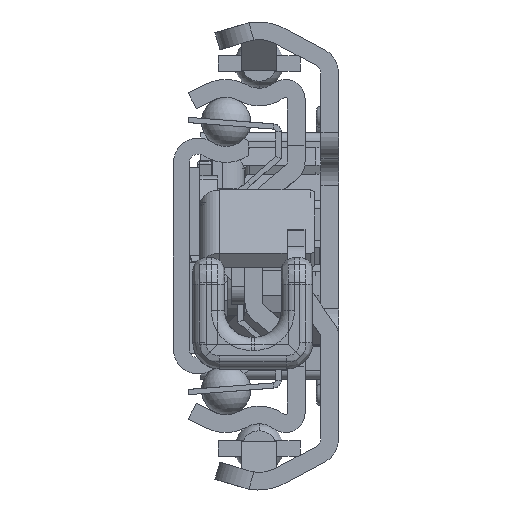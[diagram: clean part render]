
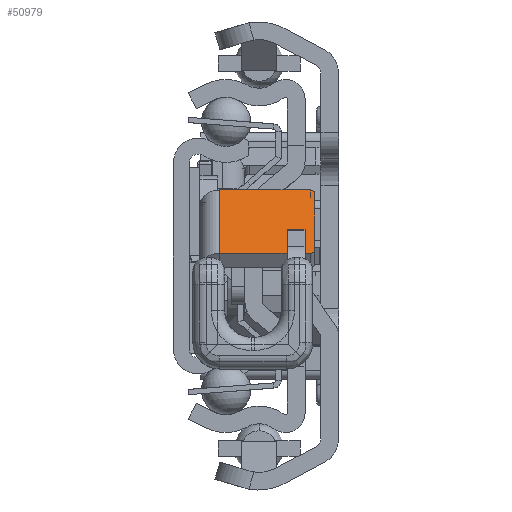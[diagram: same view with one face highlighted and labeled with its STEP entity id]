
A CAD part, left-side view. The second image highlights one B-rep face of the part: STEP entity #50979.
In plain terms, the highlighted planar face has unit normal (-0.597, 0, 0.802) as drawn and (-0.597, -0.802, 0) by its records, which use the part's own axes.
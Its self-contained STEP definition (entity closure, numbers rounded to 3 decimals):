
#50367=DIRECTION('',(0.802,-0.597,0.));
#50368=VECTOR('',#50367,12.);
#50369=CARTESIAN_POINT('',(31.957,-10.314,-0.2));
#50370=LINE('',#50369,#50368);
#50395=DIRECTION('',(0.,0.,1.));
#50396=VECTOR('',#50395,10.3);
#50397=CARTESIAN_POINT('',(41.586,-17.476,-10.5));
#50398=LINE('',#50397,#50396);
#50399=CARTESIAN_POINT('',(41.184,-17.178,-10.5));
#50400=DIRECTION('',(-0.597,-0.802,0.));
#50401=DIRECTION('',(0.,0.,-1.));
#50402=AXIS2_PLACEMENT_3D('',#50399,#50400,#50401);
#50404=DIRECTION('',(0.802,-0.597,0.));
#50405=VECTOR('',#50404,11.);
#50406=CARTESIAN_POINT('',(32.358,-10.613,-11.));
#50407=LINE('',#50406,#50405);
#50408=CARTESIAN_POINT('',(32.358,-10.613,-10.5));
#50409=DIRECTION('',(-0.597,-0.802,0.));
#50410=DIRECTION('',(-0.802,0.597,0.));
#50411=AXIS2_PLACEMENT_3D('',#50408,#50409,#50410);
#50413=DIRECTION('',(0.,0.,-1.));
#50414=VECTOR('',#50413,10.3);
#50415=CARTESIAN_POINT('',(31.957,-10.314,-0.2));
#50416=LINE('',#50415,#50414);
#50633=CARTESIAN_POINT('',(31.957,-10.314,-0.2));
#50634=CARTESIAN_POINT('',(41.586,-17.476,-0.2));
#50635=VERTEX_POINT('',#50633);
#50636=VERTEX_POINT('',#50634);
#50665=CARTESIAN_POINT('',(41.586,-17.476,-10.5));
#50666=VERTEX_POINT('',#50665);
#50667=CARTESIAN_POINT('',(32.358,-10.613,-11.));
#50668=CARTESIAN_POINT('',(41.184,-17.178,-11.));
#50669=VERTEX_POINT('',#50667);
#50670=VERTEX_POINT('',#50668);
#50671=CARTESIAN_POINT('',(31.957,-10.314,-10.5));
#50672=VERTEX_POINT('',#50671);
#50961=CARTESIAN_POINT('',(34.726,-12.374,2.));
#50962=DIRECTION('',(0.597,0.802,0.));
#50963=DIRECTION('',(0.802,-0.597,0.));
#50964=AXIS2_PLACEMENT_3D('',#50961,#50962,#50963);
#50965=PLANE('',#50964);
#50967=ORIENTED_EDGE('',*,*,#50966,.F.);
#50969=ORIENTED_EDGE('',*,*,#50968,.F.);
#50971=ORIENTED_EDGE('',*,*,#50970,.F.);
#50973=ORIENTED_EDGE('',*,*,#50972,.F.);
#50975=ORIENTED_EDGE('',*,*,#50974,.F.);
#50976=ORIENTED_EDGE('',*,*,#50948,.T.);
#50977=EDGE_LOOP('',(#50967,#50969,#50971,#50973,#50975,#50976));
#50978=FACE_OUTER_BOUND('',#50977,.F.);
#50403=CIRCLE('',#50402,0.5);
#50412=CIRCLE('',#50411,0.5);
#50948=EDGE_CURVE('',#50635,#50636,#50370,.T.);
#50966=EDGE_CURVE('',#50666,#50636,#50398,.T.);
#50968=EDGE_CURVE('',#50670,#50666,#50403,.T.);
#50970=EDGE_CURVE('',#50669,#50670,#50407,.T.);
#50972=EDGE_CURVE('',#50672,#50669,#50412,.T.);
#50974=EDGE_CURVE('',#50635,#50672,#50416,.T.);
#50979=ADVANCED_FACE('',(#50978),#50965,.F.);
